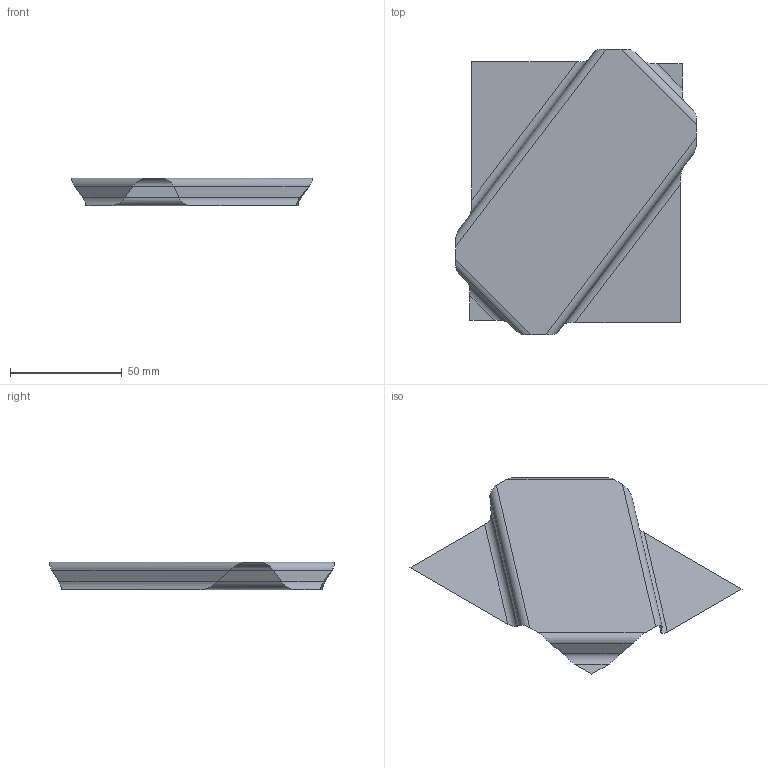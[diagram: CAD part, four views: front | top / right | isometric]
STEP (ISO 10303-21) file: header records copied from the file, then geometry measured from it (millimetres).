
FILE_DESCRIPTION(('CATIA V5 STEP Exchange'),'2;1');
FILE_NAME('C:\_Andres\UNIVERSIDAD\IQS\ASIGNATURAS\DAO\EXF\EXF-15161c\1original\Perelló_Ibarra_Ej03-chapa_v18.stp','2016-03-04T16:56:02+00:00',('none'),('none'),'CATIA Version 5 Release 20 SP 1 (IN-10)','CATIA V5 STEP AP203','none');
FILE_SCHEMA(('CONFIG_CONTROL_DESIGN'));
Length unit declared in the file: millimetre
Products named in the file (1): Perelló_Ibarra_Ej03-chapa_v18
Bounding box: 108.01 x 128.01 x 12.29 mm (x, y, z)
Surface area: 13868.1 mm2 (no closed solid volume)
Topology: 0 solids, 1 shells, 17 faces, 52 edges, 36 vertices
Faces by surface type: plane 9, cylinder 8
Entity records: 624 total; most frequent: CARTESIAN_POINT 201, ORIENTED_EDGE 68, DIRECTION 58, EDGE_CURVE 52, VERTEX_POINT 36, B_SPLINE_CURVE_WITH_KNOTS 30, VECTOR 22, LINE 22
